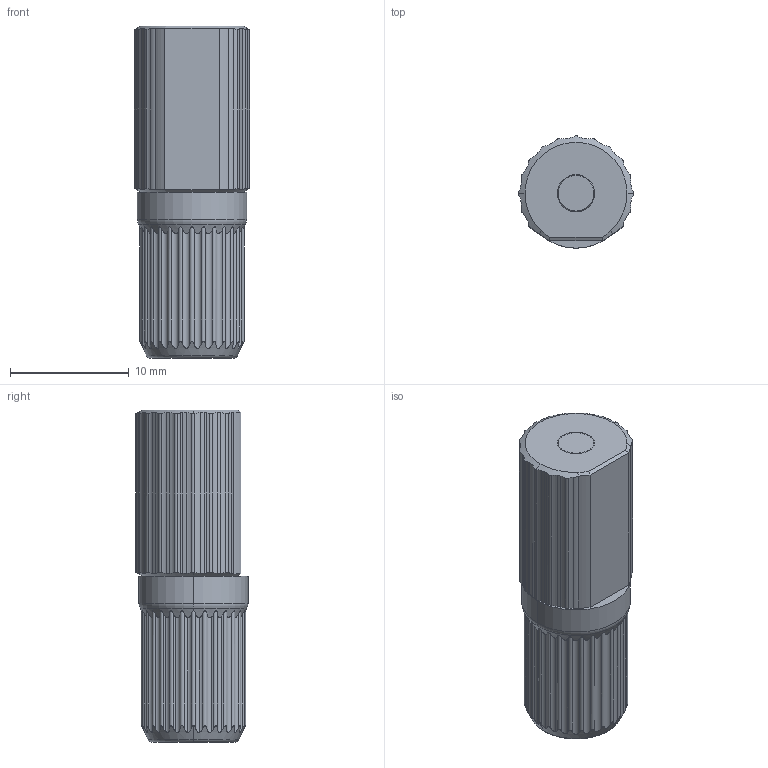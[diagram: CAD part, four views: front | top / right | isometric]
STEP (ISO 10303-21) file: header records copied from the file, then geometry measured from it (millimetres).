
FILE_DESCRIPTION (( 'STEP AP214' ), '1' );
FILE_NAME ('TI-320-X.XX-02.STEP', '2013-10-02T15:25:28', ( 'OSI_Administrator' ), ( '' ), 'SwSTEP 2.0', 'SolidWorks 2013', '' );
FILE_SCHEMA (( 'AUTOMOTIVE_DESIGN' ));
Length unit declared in the file: millimetre
Products named in the file (1): TI-320-X.XX-02
Bounding box: 9.71 x 9.45 x 28 mm (x, y, z)
Volume: 1757.8 mm3; surface area: 1067.7 mm2
Topology: 1 solids, 18 shells, 287 faces, 724 edges, 474 vertices
Faces by surface type: cylinder 183, plane 44, cone 35, torus 25
Entity records: 10145 total; most frequent: CARTESIAN_POINT 3882, ORIENTED_EDGE 1448, DIRECTION 1031, EDGE_CURVE 724, VERTEX_POINT 474, AXIS2_PLACEMENT_3D 395, B_SPLINE_CURVE_WITH_KNOTS 376, EDGE_LOOP 290
